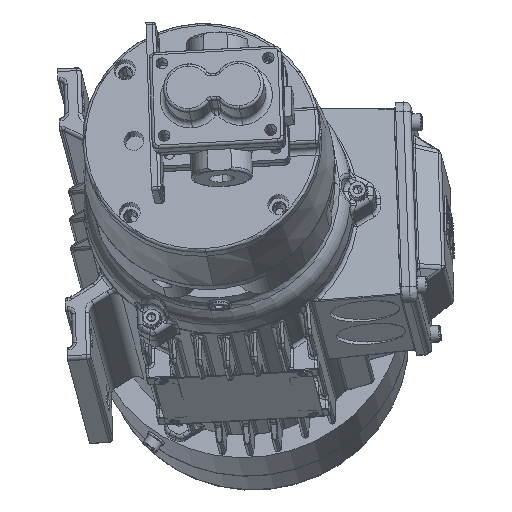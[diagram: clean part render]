
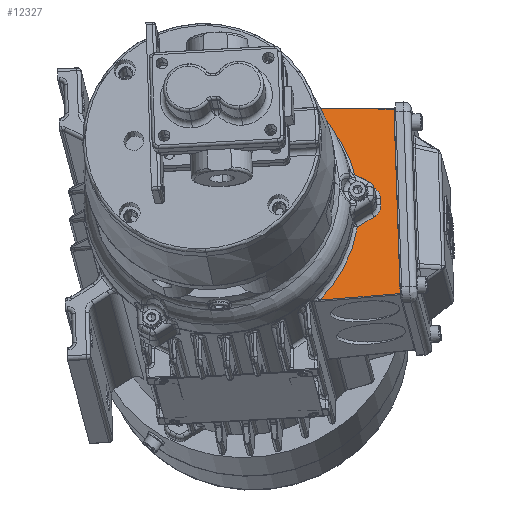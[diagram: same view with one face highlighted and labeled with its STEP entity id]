
A CAD part, top view. The second image highlights one B-rep face of the part: STEP entity #12327.
In plain terms, the highlighted planar face has unit normal (-0.033, 0.286, 0.958).
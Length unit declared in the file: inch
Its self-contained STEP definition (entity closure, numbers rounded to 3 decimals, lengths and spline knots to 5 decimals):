
#644 = FACE_OUTER_BOUND ( 'NONE', #70326, .T. ) ;
#2022 = EDGE_CURVE ( 'NONE', #79741, #93532, #5299, .T. ) ;
#2074 =( BOUNDED_CURVE ( )  B_SPLINE_CURVE ( 3, ( #26628, #42460, #57315, #49907 ),
 .UNSPECIFIED., .F., .T. ) 
 B_SPLINE_CURVE_WITH_KNOTS ( ( 4, 4 ),
 ( 0.18205, 0.80569 ),
 .UNSPECIFIED. ) 
 CURVE ( )  GEOMETRIC_REPRESENTATION_ITEM ( )  RATIONAL_B_SPLINE_CURVE ( ( 1., 0.968, 0.968, 1. ) ) 
 REPRESENTATION_ITEM ( '' )  );
#3831 = CARTESIAN_POINT ( 'NONE',  ( -0.47813, -3.30473, -2.54628 ) ) ;
#5299 = LINE ( 'NONE', #50840, #8573 ) ;
#5707 = EDGE_CURVE ( 'NONE', #10619, #37511, #21201, .T. ) ;
#6930 = VERTEX_POINT ( 'NONE', #97527 ) ;
#8046 = CARTESIAN_POINT ( 'NONE',  ( -0.62288, -1.48372, -3.09594 ) ) ;
#8573 = VECTOR ( 'NONE', #81025, 39.37008 ) ;
#10619 = VERTEX_POINT ( 'NONE', #37266 ) ;
#12327 = ADVANCED_FACE ( 'NONE', ( #644 ), #85706, .T. ) ;
#13588 =( BOUNDED_CURVE ( )  B_SPLINE_CURVE ( 3, ( #14907, #58942, #71947, #74275 ),
 .UNSPECIFIED., .F., .T. ) 
 B_SPLINE_CURVE_WITH_KNOTS ( ( 4, 4 ),
 ( 5.4775, 6.10113 ),
 .UNSPECIFIED. ) 
 CURVE ( )  GEOMETRIC_REPRESENTATION_ITEM ( )  RATIONAL_B_SPLINE_CURVE ( ( 1., 0.968, 0.968, 1. ) ) 
 REPRESENTATION_ITEM ( '' )  );
#14387 = VECTOR ( 'NONE', #79052, 39.37008 ) ;
#14907 = CARTESIAN_POINT ( 'NONE',  ( -2.48248, 0.34654, -3.70695 ) ) ;
#17219 = CARTESIAN_POINT ( 'NONE',  ( -1.18035, -1.74758, -3.03605 ) ) ;
#19517 = VECTOR ( 'NONE', #36548, 39.37008 ) ;
#19857 = EDGE_CURVE ( 'NONE', #73400, #10619, #13588, .T. ) ;
#20535 = CARTESIAN_POINT ( 'NONE',  ( -1.19665, -1.26561, -3.18078 ) ) ;
#20557 = VECTOR ( 'NONE', #61163, 39.37008 ) ;
#21015 = ORIENTED_EDGE ( 'NONE', *, *, #50856, .T. ) ;
#21201 = LINE ( 'NONE', #67216, #19517 ) ;
#25309 = ORIENTED_EDGE ( 'NONE', *, *, #19857, .T. ) ;
#26628 = CARTESIAN_POINT ( 'NONE',  ( -1.60048, -2.00154, -2.97444 ) ) ;
#28948 = CARTESIAN_POINT ( 'NONE',  ( -1.14012, -1.44376, -3.12556 ) ) ;
#29252 = CARTESIAN_POINT ( 'NONE',  ( -1.26607, -1.79939, -3.02348 ) ) ;
#29445 = CARTESIAN_POINT ( 'NONE',  ( -1.14339, -1.3472, -3.15456 ) ) ;
#32101 = CARTESIAN_POINT ( 'NONE',  ( -1.13601, -1.56536, -3.08905 ) ) ;
#33217 = ORIENTED_EDGE ( 'NONE', *, *, #5707, .T. ) ;
#35580 = CARTESIAN_POINT ( 'NONE',  ( -1.28563, -1.22087, -3.19721 ) ) ;
#35722 = ORIENTED_EDGE ( 'NONE', *, *, #48982, .T. ) ;
#36548 = DIRECTION ( 'NONE',  ( 0.881, -0.443, 0.163 ) ) ;
#37014 = ORIENTED_EDGE ( 'NONE', *, *, #59201, .T. ) ;
#37266 = CARTESIAN_POINT ( 'NONE',  ( -1.63278, -1.04629, -3.26129 ) ) ;
#37511 = VERTEX_POINT ( 'NONE', #35580 ) ;
#38779 = DIRECTION ( 'NONE',  ( -0.033, 0.286, 0.958 ) ) ;
#39014 = CARTESIAN_POINT ( 'NONE',  ( -0.74778, -3.32694, -2.54884 ) ) ;
#40285 = EDGE_CURVE ( 'NONE', #93532, #52995, #2074, .T. ) ;
#40499 = LINE ( 'NONE', #3831, #14387 ) ;
#42460 = CARTESIAN_POINT ( 'NONE',  ( -1.68736, -2.55407, -2.81213 ) ) ;
#45622 = DIRECTION ( 'NONE',  ( -0.999, 0.001, -0.035 ) ) ;
#45629 = AXIS2_PLACEMENT_3D ( 'NONE', #8046, #38779, #92173 ) ;
#46326 = LINE ( 'NONE', #90388, #20557 ) ;
#47417 = CARTESIAN_POINT ( 'NONE',  ( -1.26607, -1.79939, -3.02348 ) ) ;
#48982 = EDGE_CURVE ( 'NONE', #78998, #6930, #65466, .T. ) ;
#49907 = CARTESIAN_POINT ( 'NONE',  ( -2.35377, -3.4592, -2.56413 ) ) ;
#50840 = CARTESIAN_POINT ( 'NONE',  ( -1.598, -2.00004, -2.9748 ) ) ;
#50856 = EDGE_CURVE ( 'NONE', #37511, #88886, #61634, .T. ) ;
#51076 = LINE ( 'NONE', #96106, #71520 ) ;
#52319 = ORIENTED_EDGE ( 'NONE', *, *, #76579, .T. ) ;
#52995 = VERTEX_POINT ( 'NONE', #68120 ) ;
#54879 = CARTESIAN_POINT ( 'NONE',  ( -1.60048, -2.00154, -2.97444 ) ) ;
#56017 = CARTESIAN_POINT ( 'NONE',  ( -1.13601, -1.56536, -3.08905 ) ) ;
#57315 = CARTESIAN_POINT ( 'NONE',  ( -1.9468, -3.0561, -2.67081 ) ) ;
#58942 = CARTESIAN_POINT ( 'NONE',  ( -2.0494, -0.02259, -3.58174 ) ) ;
#59021 = CARTESIAN_POINT ( 'NONE',  ( -0.80987, -1.49128, -3.10007 ) ) ;
#59201 = EDGE_CURVE ( 'NONE', #63632, #79741, #90867, .T. ) ;
#61163 = DIRECTION ( 'NONE',  ( 0.032, -0.957, 0.287 ) ) ;
#61634 =( BOUNDED_CURVE ( )  B_SPLINE_CURVE ( 3, ( #97258, #20535, #29445, #28948 ),
 .UNSPECIFIED., .F., .T. ) 
 B_SPLINE_CURVE_WITH_KNOTS ( ( 4, 4 ),
 ( 2.0944, 3.14159 ),
 .UNSPECIFIED. ) 
 CURVE ( )  GEOMETRIC_REPRESENTATION_ITEM ( )  RATIONAL_B_SPLINE_CURVE ( ( 1., 0.911, 0.911, 1. ) ) 
 REPRESENTATION_ITEM ( '' )  );
#63632 = VERTEX_POINT ( 'NONE', #56017 ) ;
#65466 = LINE ( 'NONE', #59021, #80547 ) ;
#66943 = ORIENTED_EDGE ( 'NONE', *, *, #80695, .T. ) ;
#67216 = CARTESIAN_POINT ( 'NONE',  ( -1.28306, -1.22216, -3.19673 ) ) ;
#68120 = CARTESIAN_POINT ( 'NONE',  ( -2.35377, -3.4592, -2.56413 ) ) ;
#70326 = EDGE_LOOP ( 'NONE', ( #76862, #35722, #66943, #25309, #33217, #21015, #52319, #37014, #95595, #81417 ) ) ;
#71520 = VECTOR ( 'NONE', #45622, 39.37008 ) ;
#71947 = CARTESIAN_POINT ( 'NONE',  ( -1.75676, -0.50229, -3.42825 ) ) ;
#73400 = VERTEX_POINT ( 'NONE', #77997 ) ;
#74275 = CARTESIAN_POINT ( 'NONE',  ( -1.63278, -1.04629, -3.26129 ) ) ;
#76579 = EDGE_CURVE ( 'NONE', #88886, #63632, #46326, .T. ) ;
#76862 = ORIENTED_EDGE ( 'NONE', *, *, #89124, .T. ) ;
#77997 = CARTESIAN_POINT ( 'NONE',  ( -2.48248, 0.34654, -3.70695 ) ) ;
#78998 = VERTEX_POINT ( 'NONE', #39014 ) ;
#79052 = DIRECTION ( 'NONE',  ( 0.997, 0.082, 0.009 ) ) ;
#79741 = VERTEX_POINT ( 'NONE', #29252 ) ;
#80547 = VECTOR ( 'NONE', #89220, 39.37008 ) ;
#80695 = EDGE_CURVE ( 'NONE', #6930, #73400, #51076, .T. ) ;
#81025 = DIRECTION ( 'NONE',  ( -0.849, -0.513, 0.125 ) ) ;
#81417 = ORIENTED_EDGE ( 'NONE', *, *, #40285, .T. ) ;
#85032 = CARTESIAN_POINT ( 'NONE',  ( -1.13275, -1.66192, -3.06005 ) ) ;
#85706 = PLANE ( 'NONE',  #45629 ) ;
#88886 = VERTEX_POINT ( 'NONE', #95271 ) ;
#89124 = EDGE_CURVE ( 'NONE', #52995, #78998, #40499, .T. ) ;
#89220 = DIRECTION ( 'NONE',  ( -0.032, 0.957, -0.287 ) ) ;
#90388 = CARTESIAN_POINT ( 'NONE',  ( -1.13601, -1.56536, -3.08905 ) ) ;
#90867 =( BOUNDED_CURVE ( )  B_SPLINE_CURVE ( 3, ( #32101, #85032, #17219, #47417 ),
 .UNSPECIFIED., .F., .T. ) 
 B_SPLINE_CURVE_WITH_KNOTS ( ( 4, 4 ),
 ( 3.14159, 4.18879 ),
 .UNSPECIFIED. ) 
 CURVE ( )  GEOMETRIC_REPRESENTATION_ITEM ( )  RATIONAL_B_SPLINE_CURVE ( ( 1., 0.911, 0.911, 1. ) ) 
 REPRESENTATION_ITEM ( '' )  );
#92173 = DIRECTION ( 'NONE',  ( -0.032, 0.957, -0.287 ) ) ;
#93532 = VERTEX_POINT ( 'NONE', #54879 ) ;
#95271 = CARTESIAN_POINT ( 'NONE',  ( -1.14012, -1.44376, -3.12556 ) ) ;
#95595 = ORIENTED_EDGE ( 'NONE', *, *, #2022, .T. ) ;
#96106 = CARTESIAN_POINT ( 'NONE',  ( -0.60154, 0.344, -3.64194 ) ) ;
#97258 = CARTESIAN_POINT ( 'NONE',  ( -1.28563, -1.22087, -3.19721 ) ) ;
#97527 = CARTESIAN_POINT ( 'NONE',  ( -0.87195, 0.34437, -3.65129 ) ) ;
